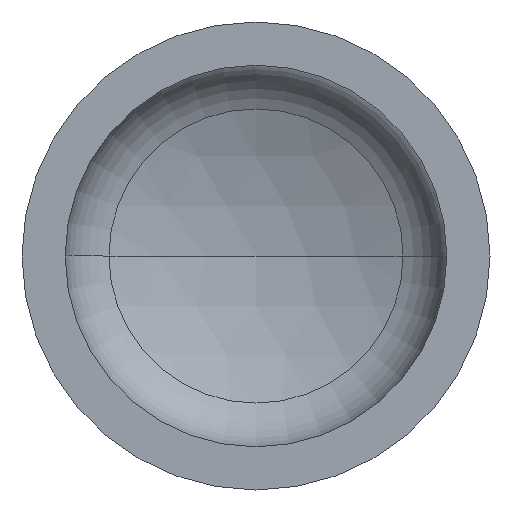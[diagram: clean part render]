
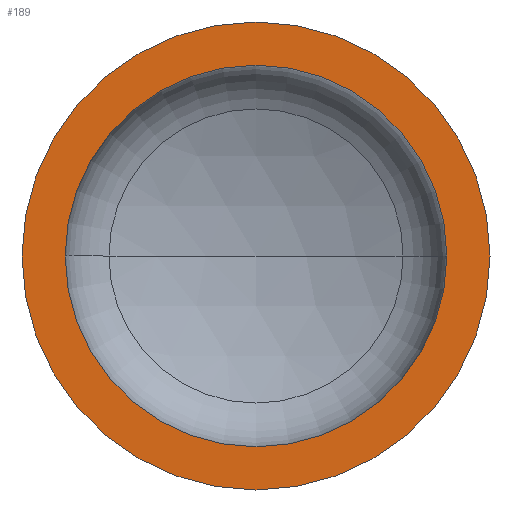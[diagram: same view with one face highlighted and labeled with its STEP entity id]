
A CAD part, front view. The second image highlights one B-rep face of the part: STEP entity #189.
In plain terms, the highlighted planar face has unit normal (0, -1, 0).
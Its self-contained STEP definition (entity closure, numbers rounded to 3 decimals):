
#8 = CIRCLE ( 'NONE', #67, 530. ) ;
#11 = EDGE_LOOP ( 'NONE', ( #75, #48 ) ) ;
#34 = AXIS2_PLACEMENT_3D ( 'NONE', #220, #287, #248 ) ;
#47 = VERTEX_POINT ( 'NONE', #368 ) ;
#48 = ORIENTED_EDGE ( 'NONE', *, *, #106, .T. ) ;
#51 = EDGE_LOOP ( 'NONE', ( #87, #128 ) ) ;
#67 = AXIS2_PLACEMENT_3D ( 'NONE', #320, #318, #308 ) ;
#70 = AXIS2_PLACEMENT_3D ( 'NONE', #377, #316, #314 ) ;
#75 = ORIENTED_EDGE ( 'NONE', *, *, #391, .T. ) ;
#80 = DIRECTION ( 'NONE',  ( 1., 0., 0. ) ) ;
#81 = VERTEX_POINT ( 'NONE', #241 ) ;
#82 = VERTEX_POINT ( 'NONE', #249 ) ;
#87 = ORIENTED_EDGE ( 'NONE', *, *, #109, .F. ) ;
#106 = EDGE_CURVE ( 'NONE', #82, #81, #299, .T. ) ;
#109 = EDGE_CURVE ( 'NONE', #47, #313, #8, .T. ) ;
#128 = ORIENTED_EDGE ( 'NONE', *, *, #388, .F. ) ;
#138 = CARTESIAN_POINT ( 'NONE',  ( 0., 0., 0. ) ) ;
#140 = CARTESIAN_POINT ( 'NONE',  ( -530., 0., 0. ) ) ;
#150 = AXIS2_PLACEMENT_3D ( 'NONE', #229, #389, #252 ) ;
#155 = FACE_BOUND ( 'NONE', #51, .T. ) ;
#163 = AXIS2_PLACEMENT_3D ( 'NONE', #138, #274, #80 ) ;
#170 = CIRCLE ( 'NONE', #150, 650. ) ;
#189 = ADVANCED_FACE ( 'NONE', ( #155, #405 ), #290, .F. ) ;
#220 = CARTESIAN_POINT ( 'NONE',  ( -650., 0., 0. ) ) ;
#229 = CARTESIAN_POINT ( 'NONE',  ( 0., 0., 0. ) ) ;
#241 = CARTESIAN_POINT ( 'NONE',  ( 650., 0., 0. ) ) ;
#247 = CIRCLE ( 'NONE', #163, 530. ) ;
#248 = DIRECTION ( 'NONE',  ( -1., 0., 0. ) ) ;
#249 = CARTESIAN_POINT ( 'NONE',  ( -650., 0., 0. ) ) ;
#252 = DIRECTION ( 'NONE',  ( 1., 0., 0. ) ) ;
#274 = DIRECTION ( 'NONE',  ( 0., -1., 0. ) ) ;
#287 = DIRECTION ( 'NONE',  ( 0., 1., 0. ) ) ;
#290 = PLANE ( 'NONE',  #34 ) ;
#299 = CIRCLE ( 'NONE', #70, 650. ) ;
#308 = DIRECTION ( 'NONE',  ( 1., 0., 0. ) ) ;
#313 = VERTEX_POINT ( 'NONE', #140 ) ;
#314 = DIRECTION ( 'NONE',  ( 1., 0., 0. ) ) ;
#316 = DIRECTION ( 'NONE',  ( 0., -1., 0. ) ) ;
#318 = DIRECTION ( 'NONE',  ( 0., -1., 0. ) ) ;
#320 = CARTESIAN_POINT ( 'NONE',  ( 0., 0., 0. ) ) ;
#368 = CARTESIAN_POINT ( 'NONE',  ( 530., 0., 0. ) ) ;
#377 = CARTESIAN_POINT ( 'NONE',  ( 0., 0., 0. ) ) ;
#388 = EDGE_CURVE ( 'NONE', #313, #47, #247, .T. ) ;
#389 = DIRECTION ( 'NONE',  ( 0., -1., 0. ) ) ;
#391 = EDGE_CURVE ( 'NONE', #81, #82, #170, .T. ) ;
#405 = FACE_OUTER_BOUND ( 'NONE', #11, .T. ) ;
